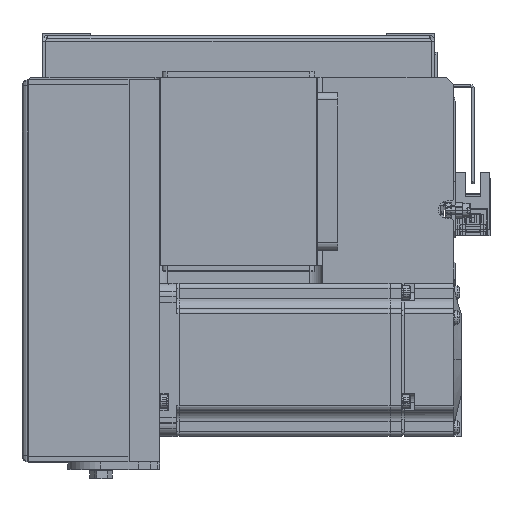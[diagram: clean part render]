
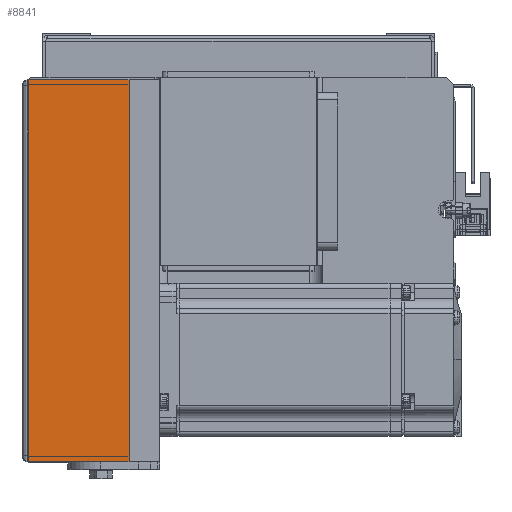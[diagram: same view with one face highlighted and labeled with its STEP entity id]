
A CAD part, top view. The second image highlights one B-rep face of the part: STEP entity #8841.
In plain terms, the highlighted planar face has unit normal (0, 0, 1) as drawn and (0, -1, 0) by its records, which use the part's own axes.
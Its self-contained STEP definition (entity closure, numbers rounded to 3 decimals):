
#1981 = CARTESIAN_POINT ( 'NONE',  ( 0., -36., 12. ) ) ;
#2792 = CARTESIAN_POINT ( 'NONE',  ( 0., -36., 52. ) ) ;
#6899 = CARTESIAN_POINT ( 'NONE',  ( -75., -36., 12. ) ) ;
#7118 = CARTESIAN_POINT ( 'NONE',  ( 75., -36., 51.5 ) ) ;
#7476 = VECTOR ( 'NONE', #27752, 1000. ) ;
#7759 = EDGE_CURVE ( 'NONE', #22525, #7977, #9812, .T. ) ;
#7977 = VERTEX_POINT ( 'NONE', #40859 ) ;
#8841 = ADVANCED_FACE ( 'NONE', ( #37381 ), #9419, .F. ) ;
#9419 = PLANE ( 'NONE',  #28711 ) ;
#9812 = LINE ( 'NONE', #7118, #11892 ) ;
#10537 = VERTEX_POINT ( 'NONE', #6899 ) ;
#11394 = DIRECTION ( 'NONE',  ( 0., 0., -1. ) ) ;
#11421 = CARTESIAN_POINT ( 'NONE',  ( -75., -36., 51.5 ) ) ;
#11892 = VECTOR ( 'NONE', #22413, 1000. ) ;
#12081 = ORIENTED_EDGE ( 'NONE', *, *, #7759, .F. ) ;
#14487 = LINE ( 'NONE', #23988, #28625 ) ;
#14587 = CARTESIAN_POINT ( 'NONE',  ( 75., -36., 12. ) ) ;
#17107 = DIRECTION ( 'NONE',  ( 1., 0., 0. ) ) ;
#18543 = DIRECTION ( 'NONE',  ( 0., 1., 0. ) ) ;
#22024 = DIRECTION ( 'NONE',  ( 0., 0., -1. ) ) ;
#22413 = DIRECTION ( 'NONE',  ( 1., 0., 0. ) ) ;
#22525 = VERTEX_POINT ( 'NONE', #31819 ) ;
#23749 = ORIENTED_EDGE ( 'NONE', *, *, #33374, .T. ) ;
#23988 = CARTESIAN_POINT ( 'NONE',  ( 75., -36., 51.5 ) ) ;
#23996 = VERTEX_POINT ( 'NONE', #14587 ) ;
#25821 = EDGE_CURVE ( 'NONE', #7977, #23996, #14487, .T. ) ;
#26353 = ORIENTED_EDGE ( 'NONE', *, *, #25821, .F. ) ;
#27752 = DIRECTION ( 'NONE',  ( 0., 0., -1. ) ) ;
#28625 = VECTOR ( 'NONE', #11394, 1000. ) ;
#28711 = AXIS2_PLACEMENT_3D ( 'NONE', #2792, #18543, #22024 ) ;
#30131 = LINE ( 'NONE', #1981, #37701 ) ;
#31766 = ORIENTED_EDGE ( 'NONE', *, *, #36169, .T. ) ;
#31819 = CARTESIAN_POINT ( 'NONE',  ( -75., -36., 51.5 ) ) ;
#33374 = EDGE_CURVE ( 'NONE', #10537, #23996, #30131, .T. ) ;
#36169 = EDGE_CURVE ( 'NONE', #22525, #10537, #37103, .T. ) ;
#37103 = LINE ( 'NONE', #11421, #7476 ) ;
#37381 = FACE_OUTER_BOUND ( 'NONE', #38396, .T. ) ;
#37701 = VECTOR ( 'NONE', #17107, 1000. ) ;
#38396 = EDGE_LOOP ( 'NONE', ( #12081, #31766, #23749, #26353 ) ) ;
#40859 = CARTESIAN_POINT ( 'NONE',  ( 75., -36., 51.5 ) ) ;
